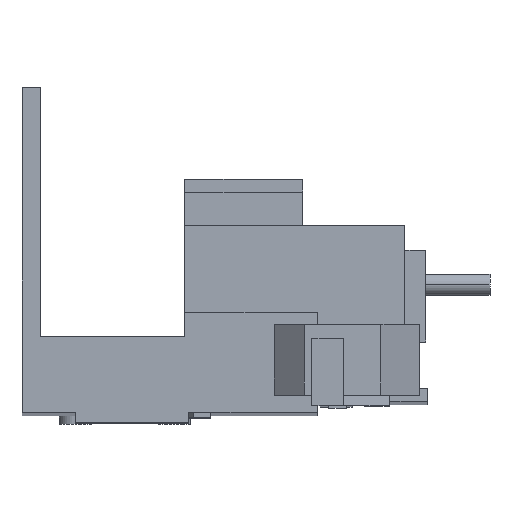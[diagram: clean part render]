
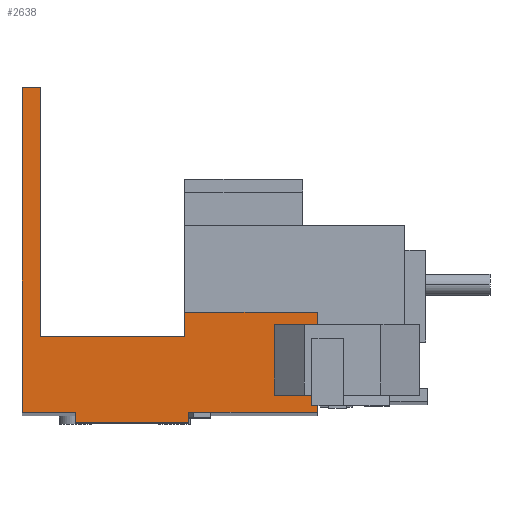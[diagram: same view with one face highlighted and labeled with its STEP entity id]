
A CAD part, front view. The second image highlights one B-rep face of the part: STEP entity #2638.
In plain terms, the highlighted planar face has unit normal (0, -1, 0.002).
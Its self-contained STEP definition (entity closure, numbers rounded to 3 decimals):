
#137 = VERTEX_POINT ( 'NONE', #1750 ) ;
#139 = VERTEX_POINT ( 'NONE', #1752 ) ;
#140 = VERTEX_POINT ( 'NONE', #1753 ) ;
#147 = VERTEX_POINT ( 'NONE', #1760 ) ;
#149 = VERTEX_POINT ( 'NONE', #1762 ) ;
#182 = VERTEX_POINT ( 'NONE', #1795 ) ;
#183 = VERTEX_POINT ( 'NONE', #1796 ) ;
#208 = VERTEX_POINT ( 'NONE', #1821 ) ;
#209 = VERTEX_POINT ( 'NONE', #1822 ) ;
#210 = VERTEX_POINT ( 'NONE', #1823 ) ;
#218 = VERTEX_POINT ( 'NONE', #1831 ) ;
#250 = VERTEX_POINT ( 'NONE', #1863 ) ;
#603 = EDGE_LOOP ( 'NONE', ( #1086, #1088, #1090, #1092, #1094, #1096, #1098, #994, #1002, #1000, #996, #1004 ) ) ;
#994 = ORIENTED_EDGE ( 'NONE', *, *, #2812, .T. ) ;
#996 = ORIENTED_EDGE ( 'NONE', *, *, #2759, .F. ) ;
#1000 = ORIENTED_EDGE ( 'NONE', *, *, #3125, .F. ) ;
#1002 = ORIENTED_EDGE ( 'NONE', *, *, #2686, .F. ) ;
#1004 = ORIENTED_EDGE ( 'NONE', *, *, #2765, .F. ) ;
#1086 = ORIENTED_EDGE ( 'NONE', *, *, #2809, .F. ) ;
#1088 = ORIENTED_EDGE ( 'NONE', *, *, #2808, .F. ) ;
#1090 = ORIENTED_EDGE ( 'NONE', *, *, #2721, .F. ) ;
#1092 = ORIENTED_EDGE ( 'NONE', *, *, #2756, .F. ) ;
#1094 = ORIENTED_EDGE ( 'NONE', *, *, #2683, .F. ) ;
#1096 = ORIENTED_EDGE ( 'NONE', *, *, #2810, .F. ) ;
#1098 = ORIENTED_EDGE ( 'NONE', *, *, #2811, .T. ) ;
#1750 = CARTESIAN_POINT ( 'NONE',  ( 41.6, -33.075, -35.931 ) ) ;
#1752 = CARTESIAN_POINT ( 'NONE',  ( 41.6, -33.046, -21.831 ) ) ;
#1753 = CARTESIAN_POINT ( 'NONE',  ( 7.5, -33.075, -35.931 ) ) ;
#1760 = CARTESIAN_POINT ( 'NONE',  ( 23.5, -33.075, -35.931 ) ) ;
#1762 = CARTESIAN_POINT ( 'NONE',  ( 0., -33.075, -35.931 ) ) ;
#1795 = CARTESIAN_POINT ( 'NONE',  ( 2.55, -32.98, 9.819 ) ) ;
#1796 = CARTESIAN_POINT ( 'NONE',  ( 0., -32.98, 9.819 ) ) ;
#1821 = CARTESIAN_POINT ( 'NONE',  ( 7.5, -33.078, -37.431 ) ) ;
#1822 = CARTESIAN_POINT ( 'NONE',  ( 22.92, -33.053, -25.181 ) ) ;
#1823 = CARTESIAN_POINT ( 'NONE',  ( 2.55, -33.053, -25.181 ) ) ;
#1831 = CARTESIAN_POINT ( 'NONE',  ( 23.5, -33.078, -37.431 ) ) ;
#1863 = CARTESIAN_POINT ( 'NONE',  ( 22.92, -33.046, -21.831 ) ) ;
#1936 = LINE ( 'NONE', #4027, #1942 ) ;
#1942 = VECTOR ( 'NONE', #4028, 1000. ) ;
#2099 = FACE_OUTER_BOUND ( 'NONE', #603, .T. ) ;
#2108 = LINE ( 'NONE', #4022, #2114 ) ;
#2114 = VECTOR ( 'NONE', #4023, 1000. ) ;
#2196 = LINE ( 'NONE', #4097, #2199 ) ;
#2199 = VECTOR ( 'NONE', #4098, 1000. ) ;
#2236 = LINE ( 'NONE', #4199, #2239 ) ;
#2239 = VECTOR ( 'NONE', #4200, 1000. ) ;
#2242 = LINE ( 'NONE', #4205, #2245 ) ;
#2245 = VECTOR ( 'NONE', #4206, 1000. ) ;
#2251 = LINE ( 'NONE', #4217, #2252 ) ;
#2252 = VECTOR ( 'NONE', #4218, 1000. ) ;
#2285 = LINE ( 'NONE', #4333, #2291 ) ;
#2289 = LINE ( 'NONE', #4335, #2292 ) ;
#2290 = LINE ( 'NONE', #4322, #2329 ) ;
#2291 = VECTOR ( 'NONE', #4334, 1000. ) ;
#2292 = VECTOR ( 'NONE', #4337, 1000. ) ;
#2293 = LINE ( 'NONE', #4336, #2334 ) ;
#2312 = LINE ( 'NONE', #4323, #2325 ) ;
#2325 = VECTOR ( 'NONE', #4338, 1000. ) ;
#2329 = VECTOR ( 'NONE', #4340, 1000. ) ;
#2334 = VECTOR ( 'NONE', #4342, 1000. ) ;
#2638 = ADVANCED_FACE ( 'NONE', ( #2099 ), #3865, .F. ) ;
#2683 = EDGE_CURVE ( 'NONE', #140, #149, #2108, .T. ) ;
#2686 = EDGE_CURVE ( 'NONE', #137, #147, #1936, .T. ) ;
#2721 = EDGE_CURVE ( 'NONE', #183, #182, #2196, .T. ) ;
#2756 = EDGE_CURVE ( 'NONE', #149, #183, #2236, .T. ) ;
#2759 = EDGE_CURVE ( 'NONE', #250, #139, #2242, .T. ) ;
#2765 = EDGE_CURVE ( 'NONE', #209, #250, #2251, .T. ) ;
#2808 = EDGE_CURVE ( 'NONE', #182, #210, #2285, .T. ) ;
#2809 = EDGE_CURVE ( 'NONE', #210, #209, #2289, .T. ) ;
#2810 = EDGE_CURVE ( 'NONE', #208, #140, #2312, .T. ) ;
#2811 = EDGE_CURVE ( 'NONE', #208, #218, #2290, .T. ) ;
#2812 = EDGE_CURVE ( 'NONE', #218, #147, #2293, .T. ) ;
#3125 = EDGE_CURVE ( 'NONE', #139, #137, #5270, .T. ) ;
#3324 = AXIS2_PLACEMENT_3D ( 'NONE', #3861, #3867, #3868 ) ;
#3861 = CARTESIAN_POINT ( 'NONE',  ( 0., -33.075, -35.931 ) ) ;
#3865 = PLANE ( 'NONE',  #3324 ) ;
#3867 = DIRECTION ( 'NONE',  ( 0., 1., -0.002 ) ) ;
#3868 = DIRECTION ( 'NONE',  ( 1., 0., 0. ) ) ;
#4022 = CARTESIAN_POINT ( 'NONE',  ( 0., -33.075, -35.931 ) ) ;
#4023 = DIRECTION ( 'NONE',  ( -1., 0., 0. ) ) ;
#4027 = CARTESIAN_POINT ( 'NONE',  ( 0., -33.075, -35.931 ) ) ;
#4028 = DIRECTION ( 'NONE',  ( -1., 0., 0. ) ) ;
#4097 = CARTESIAN_POINT ( 'NONE',  ( 2.55, -32.98, 9.819 ) ) ;
#4098 = DIRECTION ( 'NONE',  ( 1., 0., 0. ) ) ;
#4199 = CARTESIAN_POINT ( 'NONE',  ( 0., -32.98, 9.819 ) ) ;
#4200 = DIRECTION ( 'NONE',  ( 0., 0.002, 1. ) ) ;
#4205 = CARTESIAN_POINT ( 'NONE',  ( 41.6, -33.046, -21.831 ) ) ;
#4206 = DIRECTION ( 'NONE',  ( 1., 0., 0. ) ) ;
#4217 = CARTESIAN_POINT ( 'NONE',  ( 22.92, -33.046, -21.831 ) ) ;
#4218 = DIRECTION ( 'NONE',  ( 0., 0.002, 1. ) ) ;
#4322 = CARTESIAN_POINT ( 'NONE',  ( 7.5, -33.078, -37.431 ) ) ;
#4323 = CARTESIAN_POINT ( 'NONE',  ( 7.5, -33.078, -37.431 ) ) ;
#4333 = CARTESIAN_POINT ( 'NONE',  ( 2.55, -33.072, -34.474 ) ) ;
#4334 = DIRECTION ( 'NONE',  ( 0., -0.002, -1. ) ) ;
#4335 = CARTESIAN_POINT ( 'NONE',  ( 1.75, -33.053, -25.181 ) ) ;
#4336 = CARTESIAN_POINT ( 'NONE',  ( 23.5, -33.078, -37.431 ) ) ;
#4337 = DIRECTION ( 'NONE',  ( 1., 0., 0. ) ) ;
#4338 = DIRECTION ( 'NONE',  ( 0., 0.002, 1. ) ) ;
#4340 = DIRECTION ( 'NONE',  ( 1., 0., 0. ) ) ;
#4342 = DIRECTION ( 'NONE',  ( 0., 0.002, 1. ) ) ;
#5270 = LINE ( 'NONE', #5459, #5273 ) ;
#5273 = VECTOR ( 'NONE', #5460, 1000. ) ;
#5459 = CARTESIAN_POINT ( 'NONE',  ( 41.6, -33.075, -35.931 ) ) ;
#5460 = DIRECTION ( 'NONE',  ( 0., -0.002, -1. ) ) ;
